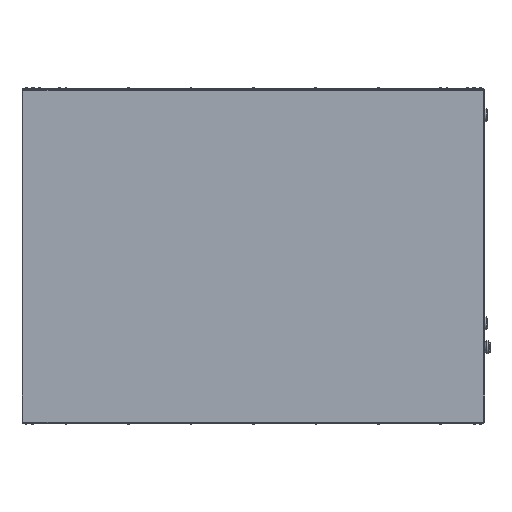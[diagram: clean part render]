
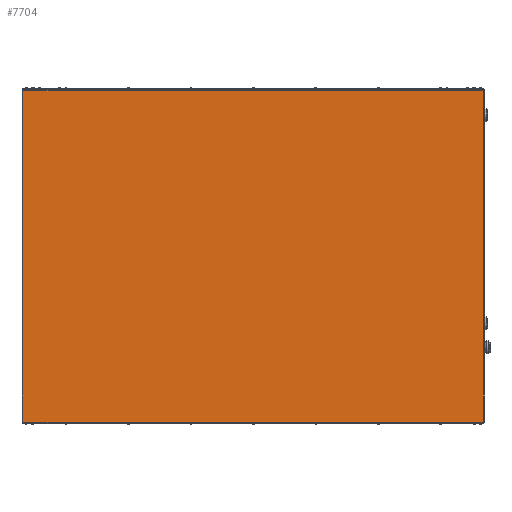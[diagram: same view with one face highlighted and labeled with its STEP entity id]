
A CAD part, front view. The second image highlights one B-rep face of the part: STEP entity #7704.
In plain terms, the highlighted planar face has unit normal (0, -1, 0).
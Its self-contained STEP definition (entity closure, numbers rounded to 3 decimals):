
#3059 = CARTESIAN_POINT ( 'NONE',  ( 481.5, -0.8, -347.7 ) ) ;
#3073 = DIRECTION ( 'NONE',  ( 0., 0., 1. ) ) ;
#3119 = DIRECTION ( 'NONE',  ( 0., 0., -1. ) ) ;
#3126 = CARTESIAN_POINT ( 'NONE',  ( -481.5, -0.8, 347.7 ) ) ;
#4325 = VERTEX_POINT ( 'NONE', #36697 ) ;
#4726 = VERTEX_POINT ( 'NONE', #36631 ) ;
#7704 = ADVANCED_FACE ( 'NONE', ( #33568 ), #36010, .F. ) ;
#18711 = ORIENTED_EDGE ( 'NONE', *, *, #26554, .T. ) ;
#19077 = ORIENTED_EDGE ( 'NONE', *, *, #25643, .T. ) ;
#22960 = VECTOR ( 'NONE', #3073, 1000. ) ;
#22970 = LINE ( 'NONE', #3059, #22960 ) ;
#22981 = VECTOR ( 'NONE', #3119, 1000. ) ;
#22986 = LINE ( 'NONE', #3126, #22981 ) ;
#24220 = CARTESIAN_POINT ( 'NONE',  ( 481.5, -0.8, 346.5 ) ) ;
#24410 = CARTESIAN_POINT ( 'NONE',  ( 481.5, -0.8, -346.5 ) ) ;
#25629 = EDGE_CURVE ( 'NONE', #4325, #4726, #22986, .T. ) ;
#25643 = EDGE_CURVE ( 'NONE', #38875, #38742, #22970, .T. ) ;
#26548 = EDGE_CURVE ( 'NONE', #38742, #4325, #29374, .T. ) ;
#26554 = EDGE_CURVE ( 'NONE', #4726, #38875, #29348, .T. ) ;
#27249 = AXIS2_PLACEMENT_3D ( 'NONE', #35863, #35476, #36040 ) ;
#27608 = CARTESIAN_POINT ( 'NONE',  ( 481.5, -0.8, 346.5 ) ) ;
#27609 = DIRECTION ( 'NONE',  ( -1., 0., 0. ) ) ;
#27622 = CARTESIAN_POINT ( 'NONE',  ( -481.5, -0.8, -346.5 ) ) ;
#27623 = DIRECTION ( 'NONE',  ( 1., 0., 0. ) ) ;
#29345 = VECTOR ( 'NONE', #27623, 1000. ) ;
#29348 = LINE ( 'NONE', #27622, #29345 ) ;
#29355 = VECTOR ( 'NONE', #27609, 1000. ) ;
#29374 = LINE ( 'NONE', #27608, #29355 ) ;
#33568 = FACE_OUTER_BOUND ( 'NONE', #45078, .T. ) ;
#35476 = DIRECTION ( 'NONE',  ( 0., 1., 0. ) ) ;
#35863 = CARTESIAN_POINT ( 'NONE',  ( 0., -0.8, 0. ) ) ;
#36010 = PLANE ( 'NONE',  #27249 ) ;
#36040 = DIRECTION ( 'NONE',  ( 0., 0., -1. ) ) ;
#36631 = CARTESIAN_POINT ( 'NONE',  ( -481.5, -0.8, -346.5 ) ) ;
#36697 = CARTESIAN_POINT ( 'NONE',  ( -481.5, -0.8, 346.5 ) ) ;
#38742 = VERTEX_POINT ( 'NONE', #24220 ) ;
#38875 = VERTEX_POINT ( 'NONE', #24410 ) ;
#41188 = ORIENTED_EDGE ( 'NONE', *, *, #25629, .T. ) ;
#41192 = ORIENTED_EDGE ( 'NONE', *, *, #26548, .T. ) ;
#45078 = EDGE_LOOP ( 'NONE', ( #18711, #19077, #41192, #41188 ) ) ;
